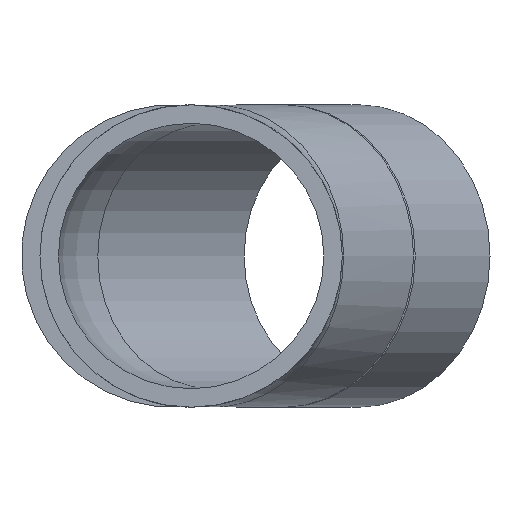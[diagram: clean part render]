
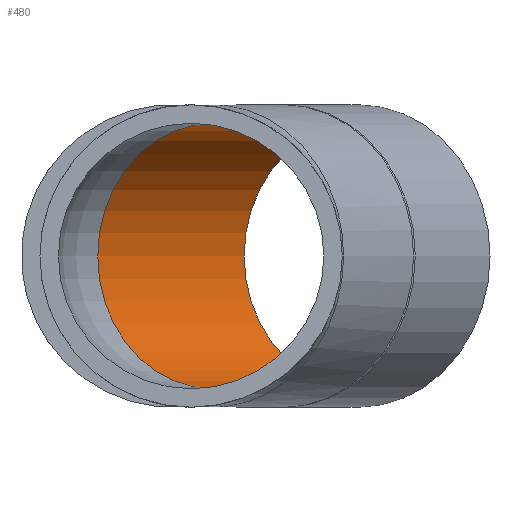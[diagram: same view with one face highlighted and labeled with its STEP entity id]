
A CAD part, front view. The second image highlights one B-rep face of the part: STEP entity #480.
In plain terms, the highlighted cylindrical face has radius 39.5 mm (diameter 79 mm), a full revolution.
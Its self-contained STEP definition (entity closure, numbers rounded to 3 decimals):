
#77=CYLINDRICAL_SURFACE($,#535,39.5);
#92=FACE_BOUND($,#162,.T.);
#120=FACE_OUTER_BOUND($,#161,.T.);
#161=EDGE_LOOP($,(#416));
#162=EDGE_LOOP($,(#417));
#187=CIRCLE($,#530,39.5);
#190=CIRCLE($,#536,39.5);
#234=VERTEX_POINT($,#1161);
#237=VERTEX_POINT($,#1170);
#295=EDGE_CURVE($,#234,#234,#187,.T.);
#298=EDGE_CURVE($,#237,#237,#190,.T.);
#416=ORIENTED_EDGE($,*,*,#298,.F.);
#417=ORIENTED_EDGE($,*,*,#295,.T.);
#480=ADVANCED_FACE($,(#120,#92),#77,.F.);
#530=AXIS2_PLACEMENT_3D($,#1162,#634,#635);
#535=AXIS2_PLACEMENT_3D($,#1169,#644,#645);
#536=AXIS2_PLACEMENT_3D($,#1171,#646,#647);
#634=DIRECTION('center_axis',(-0.5,-0.866,0.));
#635=DIRECTION('ref_axis',(0.866,-0.5,0.));
#644=DIRECTION('center_axis',(-0.5,-0.866,0.));
#645=DIRECTION('ref_axis',(0.866,-0.5,0.));
#646=DIRECTION('center_axis',(-0.5,-0.866,0.));
#647=DIRECTION('ref_axis',(0.866,-0.5,0.));
#1161=CARTESIAN_POINT('',(-27.777,95.888,0.));
#1162=CARTESIAN_POINT('Origin',(6.431,76.138,0.));
#1169=CARTESIAN_POINT('Origin',(28.215,113.87,0.));
#1170=CARTESIAN_POINT('',(84.208,131.853,0.));
#1171=CARTESIAN_POINT('Origin',(50.,151.603,0.));
